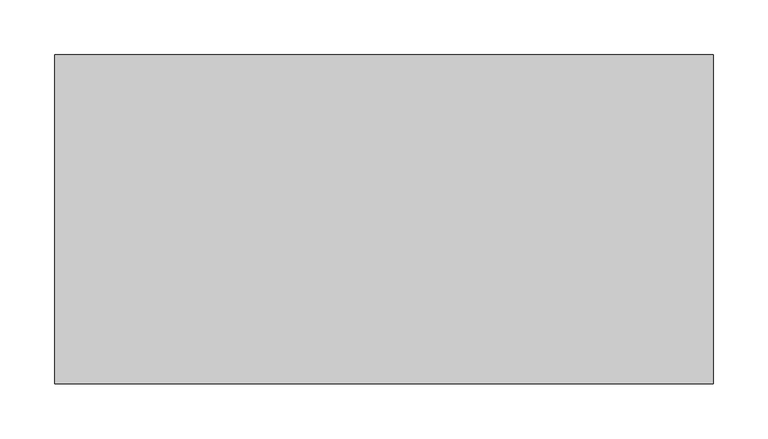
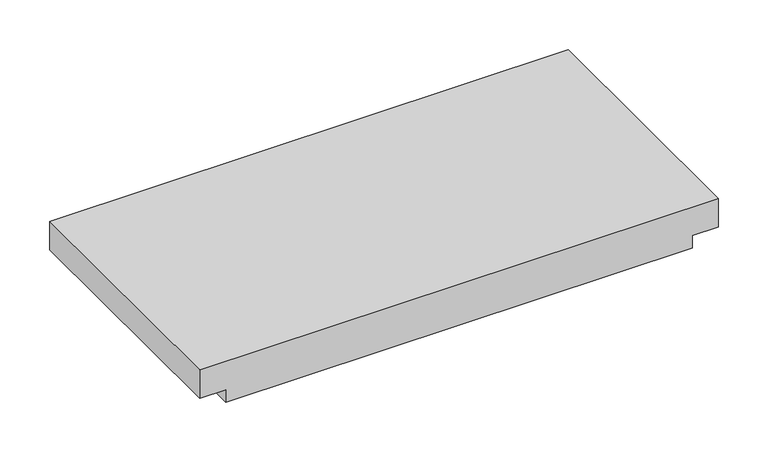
"""IFC4 building model written with IfcOpenShell, lengths in millimetres: proxy geometry, Módulo Laje de Concreto Celular com Friso - Celucon : MLCC friso 05x30x60cm (A x B x C)."""

from ifc_helpers import new_model, si_unit, frame, origin, place, context, project, spatial, polyline, outline, extrude, source, transform, mapped, element, save


def generic_models_69db69bc(model_context):
    return source(origin(), model_context, "Body", "SweptSolid", [
        extrude(outline(polyline([(50.0, 300.0), (50.0, -300.0), (15.0, -300.0), (15.0, -270.0), (0.0, -270.0), (0.0, 270.0), (15.0, 270.0), (15.0, 300.0), (50.0, 300.0)])), frame((0.0, -150.0, 0.0), z_axis=(0.0, 1.0, 0.0), x_axis=(0.0, 0.0, 1.0)), (0.0, 0.0, 1.0), 300.0),
    ])


if __name__ == "__main__":
    model = new_model("IFC4")
    model_context = context("Model", 3, world=origin())
    ifc_project = project(units=[si_unit("LENGTHUNIT", "METRE", prefix="MILLI")], contexts=[model_context])
    site = spatial("IfcSite", under=ifc_project)
    building = spatial("IfcBuilding", under=site)
    placement = place(None, origin())
    generic_models_shape = generic_models_69db69bc(model_context)
    element("IfcBuildingElementProxy", 1, Name="Módulo Laje de Concreto Celular com Friso - Celucon : MLCC friso 05x30x60cm (A x B x C)", ObjectType="Módulo Laje de Concreto Celular com Friso - Celucon : MLCC friso 05x30x60cm (A x B x C)", at=placement, inside=building, context=model_context, shape_type="MappedRepresentation", body=[
        mapped(generic_models_shape, transform((0.0, 0.0, 0.0), x_axis=(1.0, 0.0, 0.0), y_axis=(0.0, 1.0, 0.0), z_axis=(0.0, 0.0, 1.0))),
    ])
    save(model, "model.ifc")
